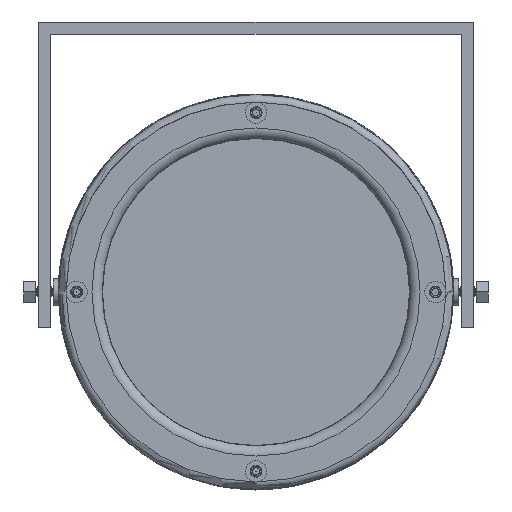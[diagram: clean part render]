
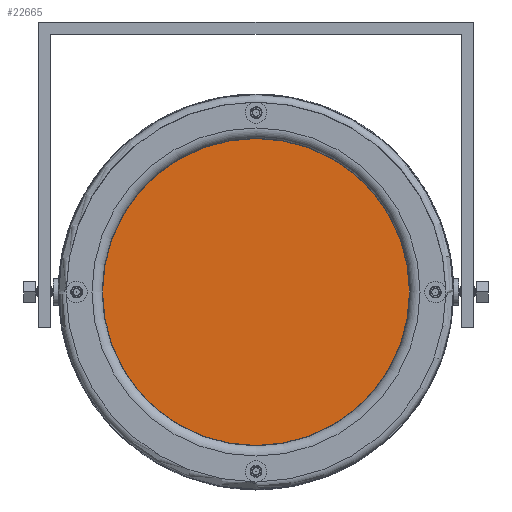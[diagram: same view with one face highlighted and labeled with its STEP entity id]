
A CAD part, left-side view. The second image highlights one B-rep face of the part: STEP entity #22665.
In plain terms, the highlighted planar face has unit normal (-1, 0, 0).
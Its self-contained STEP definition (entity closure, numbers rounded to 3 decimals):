
#6058=CIRCLE('',#25391,68.961);
#7436=FACE_OUTER_BOUND('',#8874,.T.);
#8874=EDGE_LOOP('',(#21128));
#10987=VERTEX_POINT('',#60828);
#14374=EDGE_CURVE('',#10987,#10987,#6058,.T.);
#21128=ORIENTED_EDGE('',*,*,#14374,.T.);
#21278=PLANE('',#25392);
#22665=ADVANCED_FACE('',(#7436),#21278,.T.);
#25391=AXIS2_PLACEMENT_3D('',#60830,#32121,#32122);
#25392=AXIS2_PLACEMENT_3D('',#60831,#32123,#32124);
#32121=DIRECTION('center_axis',(-1.,0.,0.));
#32122=DIRECTION('ref_axis',(0.,0.,1.));
#32123=DIRECTION('center_axis',(-1.,0.,0.));
#32124=DIRECTION('ref_axis',(0.,0.,1.));
#60828=CARTESIAN_POINT('',(1081.316,-548.854,2084.82));
#60830=CARTESIAN_POINT('Origin',(1081.316,-617.815,2084.82));
#60831=CARTESIAN_POINT('Origin',(1081.316,-642.,2084.82));
